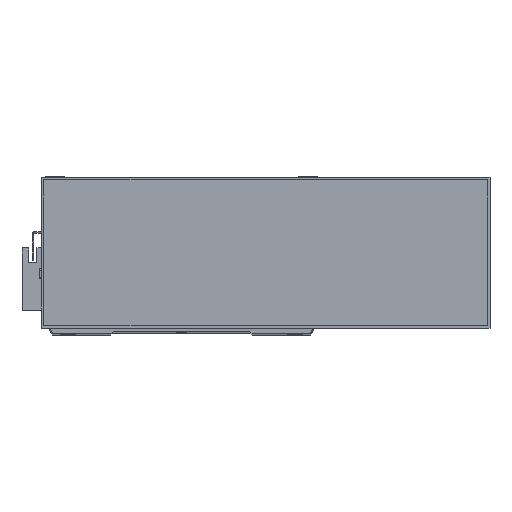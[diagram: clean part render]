
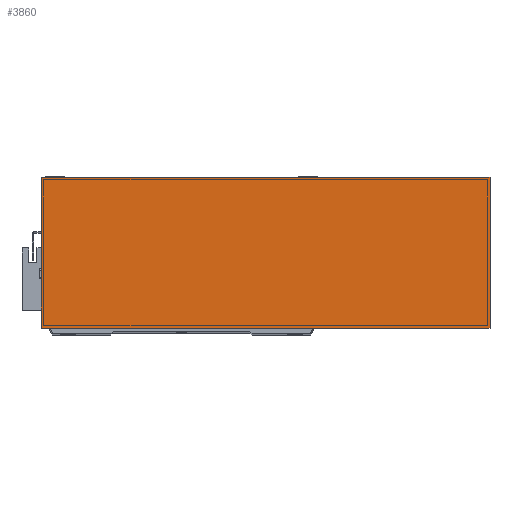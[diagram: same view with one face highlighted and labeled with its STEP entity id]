
A CAD part, top view. The second image highlights one B-rep face of the part: STEP entity #3860.
In plain terms, the highlighted planar face has unit normal (0, 0, 1).
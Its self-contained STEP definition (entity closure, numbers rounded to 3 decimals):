
#719 = AXIS2_PLACEMENT_3D ( 'NONE', #18612, #5052, #14094 ) ;
#787 = EDGE_LOOP ( 'NONE', ( #10906, #14110, #5309, #26203 ) ) ;
#2990 = LINE ( 'NONE', #5281, #22190 ) ;
#3860 = ADVANCED_FACE ( 'NONE', ( #21608 ), #9637, .F. ) ;
#4601 = EDGE_CURVE ( 'NONE', #18561, #21269, #13590, .T. ) ;
#5052 = DIRECTION ( 'NONE',  ( 0., 0., -1. ) ) ;
#5281 = CARTESIAN_POINT ( 'NONE',  ( 0., 0., 50. ) ) ;
#5288 = EDGE_CURVE ( 'NONE', #13284, #14751, #2990, .T. ) ;
#5309 = ORIENTED_EDGE ( 'NONE', *, *, #4601, .T. ) ;
#5310 = DIRECTION ( 'NONE',  ( 0., -1., 0. ) ) ;
#6778 = LINE ( 'NONE', #10249, #18669 ) ;
#7263 = CARTESIAN_POINT ( 'NONE',  ( 0., 93., 50. ) ) ;
#8074 = VECTOR ( 'NONE', #15978, 1000. ) ;
#8878 = DIRECTION ( 'NONE',  ( -1., 0., 0. ) ) ;
#9637 = PLANE ( 'NONE',  #719 ) ;
#10249 = CARTESIAN_POINT ( 'NONE',  ( 0., 0., 50. ) ) ;
#10906 = ORIENTED_EDGE ( 'NONE', *, *, #5288, .T. ) ;
#11131 = EDGE_CURVE ( 'NONE', #14751, #18561, #6778, .T. ) ;
#12329 = VECTOR ( 'NONE', #8878, 1000. ) ;
#13284 = VERTEX_POINT ( 'NONE', #7263 ) ;
#13590 = LINE ( 'NONE', #21112, #8074 ) ;
#14094 = DIRECTION ( 'NONE',  ( -1., 0., 0. ) ) ;
#14110 = ORIENTED_EDGE ( 'NONE', *, *, #11131, .T. ) ;
#14751 = VERTEX_POINT ( 'NONE', #22640 ) ;
#15891 = EDGE_CURVE ( 'NONE', #21269, #13284, #17966, .T. ) ;
#15978 = DIRECTION ( 'NONE',  ( 0., 1., 0. ) ) ;
#17966 = LINE ( 'NONE', #21487, #12329 ) ;
#18561 = VERTEX_POINT ( 'NONE', #24126 ) ;
#18612 = CARTESIAN_POINT ( 'NONE',  ( 0., 0., 50. ) ) ;
#18669 = VECTOR ( 'NONE', #27039, 1000. ) ;
#21112 = CARTESIAN_POINT ( 'NONE',  ( 277., 0., 50. ) ) ;
#21269 = VERTEX_POINT ( 'NONE', #24326 ) ;
#21487 = CARTESIAN_POINT ( 'NONE',  ( 0., 93., 50. ) ) ;
#21608 = FACE_OUTER_BOUND ( 'NONE', #787, .T. ) ;
#22190 = VECTOR ( 'NONE', #5310, 1000. ) ;
#22640 = CARTESIAN_POINT ( 'NONE',  ( 0., 0., 50. ) ) ;
#24126 = CARTESIAN_POINT ( 'NONE',  ( 277., 0., 50. ) ) ;
#24326 = CARTESIAN_POINT ( 'NONE',  ( 277., 93., 50. ) ) ;
#26203 = ORIENTED_EDGE ( 'NONE', *, *, #15891, .T. ) ;
#27039 = DIRECTION ( 'NONE',  ( 1., 0., 0. ) ) ;
